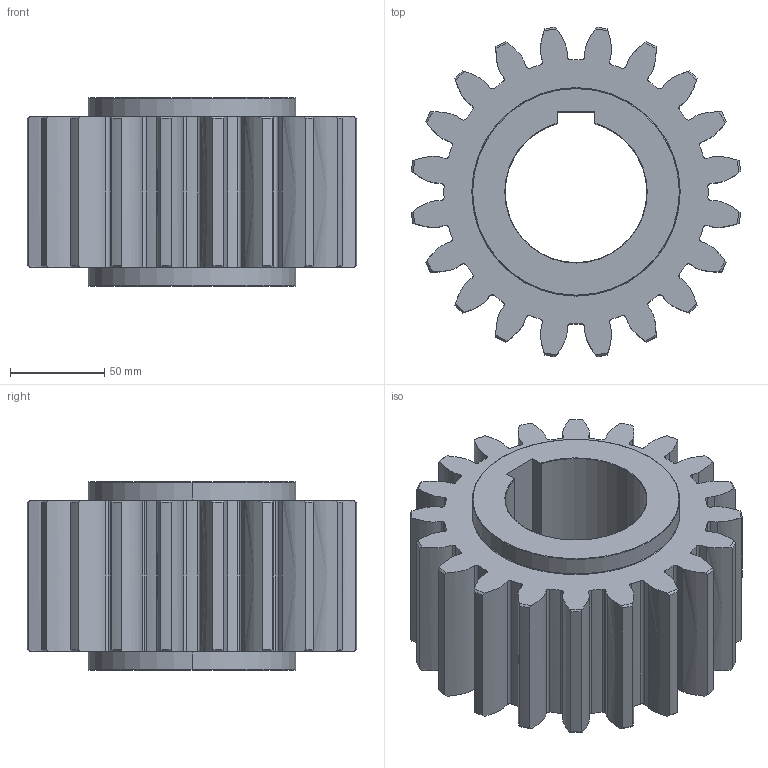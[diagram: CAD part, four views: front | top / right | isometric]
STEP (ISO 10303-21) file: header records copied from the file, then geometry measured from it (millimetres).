
FILE_DESCRIPTION (( 'STEP AP214' ), '1' );
FILE_NAME ('1SG__S080020S.STEP', '2021-08-03T07:58:18', ( '' ), ( '' ), 'SwSTEP 2.0', 'SolidWorks 2021', '' );
FILE_SCHEMA (( 'AUTOMOTIVE_DESIGN' ));
Length unit declared in the file: millimetre
Products named in the file (1): 1SG__S080020S
Bounding box: 174.62 x 174.62 x 100 mm (x, y, z)
Volume: 1307817.2 mm3; surface area: 143625.3 mm2
Topology: 1 solids, 1 shells, 218 faces, 670 edges, 456 vertices
Faces by surface type: cylinder 77, bspline 60, cone 50, plane 27, torus 4
Entity records: 14512 total; most frequent: CARTESIAN_POINT 8717, ORIENTED_EDGE 1340, DIRECTION 1076, EDGE_CURVE 670, VERTEX_POINT 456, AXIS2_PLACEMENT_3D 411, VECTOR 254, LINE 254
